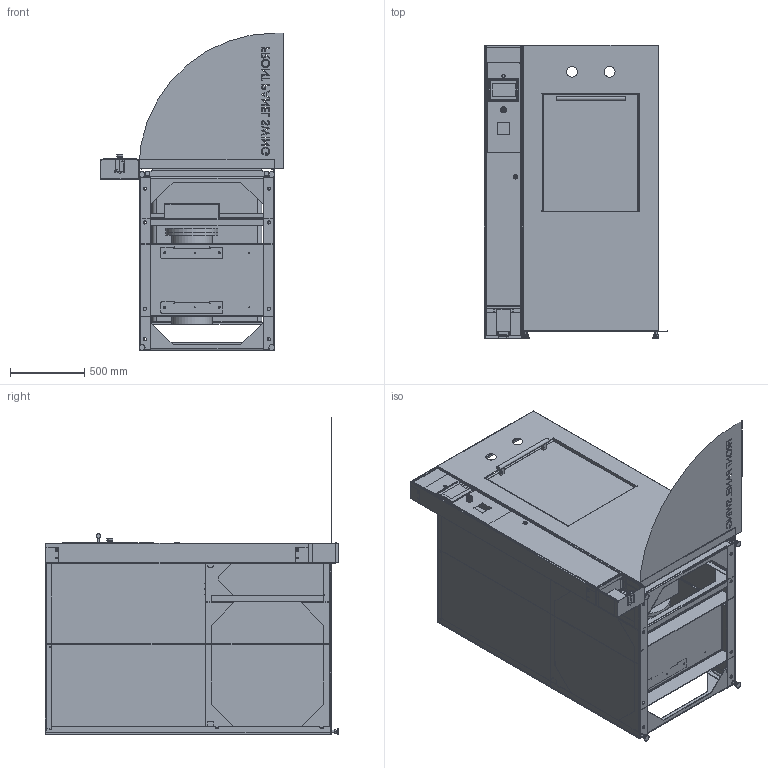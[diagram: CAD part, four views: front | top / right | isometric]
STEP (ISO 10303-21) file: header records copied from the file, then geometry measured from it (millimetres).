
FILE_DESCRIPTION (( 'STEP AP203' ), '1' );
FILE_NAME ('26AV-HC - CAB - LEFT CONTROLS.STEP', '2026-02-10T18:41:39', ( '' ), ( '' ), 'SwSTEP 2.0', 'SolidWorks 2024', '' );
FILE_SCHEMA (( 'CONFIG_CONTROL_DESIGN' ));
Length unit declared in the file: inch
Products named in the file (77): REVIT - SR-26A CHAMBER - TOP_316L SS; REVIT - Control Column Overlay_-01; Door Swing_Left Controls; REVIT - Southco-E5-6-005-UU1_Nut_clf; REVIT - 26 SQ VERTICAL FRAME_-01, 26AV; REVIT - PROGEN CHAMBER & PANEL ASSM_Right Hinge; REVIT - GS2107-WTBD_Av2_Config1; RIVET - RIVET - RIVET - Foot Pedal Enclosure - Cable Shield_-01 Inner Shield; REVIT - 26 SQ VERTICAL FRAME - BOTTOM - CROSSMEMBER_back; REVIT - Southco-E5-6-005-UU1_Driver-(Slotted)_clf; REVIT - REVIT - Southco-E5-6-005-UU1; RIVET - Foot Pedal_Config1; REVIT - 26 SQ VERTICAL FRAME - GENERATOR SUPPORT_Config1; REVIT - 26 SQ VERTICAL DOOR - WELDMENT_Welded Assem; REVIT - REVIT - X1 CONTROL COLUMN END_Config1; RIVET - RIVET - Foot Pedal Enclosure - Bottom_-01, 76" LEFT HINGE; REVIT - PROGEN RING FLANGE; REVIT - 26 SQ VERTICAL FRAME - AIR COMPRESSOR SUPPORT; REVIT - REVIT - X1 CONTROL COLUMN ASSEMBLY_-01, 70 left Closed; REVIT - xb5as86449b4; REVIT - PROGEN CHAMBER; REVIT - 26 SQ VERTICAL DOOR - COVER; REVIT - FOOT, POLYMOUNT .75-10 1.58_Config1; REVIT - PROGEN FOOT_PLUMBING CLEARANCE FOR BIOSEAL; REVIT - REVIT - X1 Control Column Door_-01, 70" LEFT HINGE; RIVET - RIVET - Foot Pedal Enclosure - Top_-01, 76" LEFT HINGE; REVIT - REVIT - X1 CONTROL COLUMN BOX_70 Left CLosed; REVIT - 26AV CHAMBER WELDMENT_26AV; REVIT - REVIT - X1 CONTROL COLUMN BACK_-01, 70" LEFT HINGE; RIVET - RIVET - Foot Pedal Enclosure - Top; REVIT - 26 SQ VERTICAL FRAME - MIDDLE - REAR CROSSMEMBER; REVIT - PROGEN CHAMBER BLANK; REVIT - 26 SQ VERTICAL FRAME - BACK UPRIGHT_Rear Upright; 91146 - PROGEN WATER BAFFLE; REVIT - SR-26A JACKET - BOTTOM_Config1; REVIT - PROGEN CHAMBER WELDMENT; REVIT - 26 SQ VERTICAL FRAME - TOP_-01, 26AV Left; REVIT - 26 SQ VERTICAL DOOR - ANGLE; REVIT - 26 SQ VERTICAL FRAME - BOTTOM_-02, RIGHT; REVIT - 26 SQ Vertical Door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
Assembly tree (91 placements, depth 5):
  26AV-HC - CAB - LEFT CONTROLS
    REVIT - 26 SQ VERTICAL FRAME_-01, 26AV
      REVIT - 26 SQ VERTICAL FRAME - FRONT UPRIGHT_-01, Left
      REVIT - 26 SQ VERTICAL FRAME - FRONT UPRIGHT_-02, RIGHT
      REVIT - 26 SQ VERTICAL FRAME - MIDDLE UPRIGHT  x2
      REVIT - 26 SQ VERTICAL FRAME - BACK UPRIGHT_Rear Upright  x2
      REVIT - 26 SQ VERTICAL FRAME - BOTTOM_-01, LEFT
      REVIT - 26 SQ VERTICAL FRAME - BOTTOM_-02, RIGHT
      REVIT - 26 SQ VERTICAL FRAME - BOTTOM - CROSSMEMBER
      REVIT - 26 SQ VERTICAL FRAME - BOTTOM - CROSSMEMBER_back
      REVIT - 26 SQ VERTICAL FRAME - MIDDLE_-01 - 26AV LEFT
      REVIT - 26 SQ VERTICAL FRAME - MIDDLE_-02 - 26AV Right
      REVIT - 26 SQ VERTICAL FRAME - MIDDLE - FRONT CROSSMEMBER_Middle Frame Support
      REVIT - 26 SQ VERTICAL FRAME - MIDDLE - REAR CROSSMEMBER
      REVIT - 26 SQ VERTICAL FRAME - TOP_-01, 26AV Left
      REVIT - 26 SQ VERTICAL FRAME - TOP_-02, 26AV Right
      REVIT - 26 SQ VERTICAL FRAME - TOP - CROSSMEMBER  x2
      REVIT - 26 SQ VERTICAL FRAME - AIR COMPRESSOR SUPPORT
      REVIT - 26 SQ VERTICAL FRAME - GENERATOR SUPPORT_Config1
      REVIT - NUT, COUPLING, .75-10, UNCOATED_90264A243  x4
      REVIT - 26 SQ VERTICAL FRAME - BOTTOM - MID-CROSSMEMBER_Config1
    REVIT - FOOT, POLYMOUNT .75-10 1.58_Config1  x4
    REVIT - 26AV CHAMBER WELDMENT_26AV
      REVIT - 26 SQ VERT DOOR ENDRING - MACHINED
        REVIT - 26 SQ VERT DOOR ENDRING - BLANK_Waterjet Cut
      REVIT - 26 x 26 BACKHEAD_92250-01 - S.S. SA-240-316L
      REVIT - SR-26A CHAMBER - TOP_316L SS
      REVIT - SR-26A CHAMBER - BOTTOM_CHAMBER DIMPLING FEATURE FOR VESSEL ASSEMBLY
      REVIT - SR-26A JACKET - TOP_Config1
      REVIT - SR-26A JACKET - BOTTOM_Config1
    REVIT - 26 SQ VERTICAL DOOR KIT
      REVIT - 26 SQ VERT DOOR ENDRING - MACHINED
        REVIT - 26 SQ VERT DOOR ENDRING - BLANK_Waterjet Cut
      REVIT - 26 SQ VERTICAL DOOR - WELDMENT_Welded Assem
        REVIT - 26 SQ Vertical Door
          REVIT - 26 SQ VERTICAL DOOR - BLANK_FEA
        REVIT - 26 SQ VERTICAL DOOR - ANGLE
      Assem2^REVIT - 26 SQ VERTICAL DOOR KIT
        REVIT - 26 SQ VERTICAL DOOR - COVER
        REVIT - VERTICAL DOOR HANDLE_3743N115
    REVIT - PROGEN CHAMBER & PANEL ASSM_Right Hinge
      REVIT - PROGEN FACE PLATE
      REVIT - PROGEN CHAMBER WELDMENT
        REVIT - PROGEN CHAMBER
          REVIT - PROGEN CHAMBER BLANK
        91146 - PROGEN WATER BAFFLE
        REVIT - PROGEN RING FLANGE
        REVIT - PROGEN FOOT_PLUMBING CLEARANCE FOR BIOSEAL  x2
        REVIT - PROGEN REAR HEAD
      REVIT - PROGEN PANEL ASSM_Right
        REVIT - PROGEN ELECTRICAL PANEL
        REVIT - PROGEN PANEL COVER
    REVIT - 26V FRONT PANEL_-01, RIGHT HINGE
    REVIT - 26V Cabinet Panels_-01 AV 01  x2
    REVIT - 26V Cabinet Panels_-02 AV 02  x2
    REVIT - REVIT - X1 CONTROL COLUMN ASSEMBLY_-01, 70 left Closed
      REVIT - REVIT - X1 CONTROL COLUMN BOX_70 Left CLosed
        REVIT - REVIT - X1 CONTROL COLUMN BACK_-01, 70" LEFT HINGE
        REVIT - REVIT - X1 Control Column Door_-01, 70" LEFT HINGE
        REVIT - REVIT - X1 CONTROL COLUMN RIVET PLATE_Config1  x2
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Bounding box: 1241.49 x 1982.42 x 2146.51 mm (x, y, z)
Volume: 105482929.3 mm3; surface area: 44372275.3 mm2
Topology: 81 solids, 81 shells, 5803 faces, 15681 edges, 10104 vertices
Faces by surface type: plane 3677, cylinder 1632, bspline 263, cone 125, torus 97, sphere 9
Entity records: 206117 total; most frequent: CARTESIAN_POINT 75543, ORIENTED_EDGE 27064, DIRECTION 22638, EDGE_CURVE 13532, VECTOR 9446, LINE 9446, VERTEX_POINT 8737, AXIS2_PLACEMENT_3D 6596
